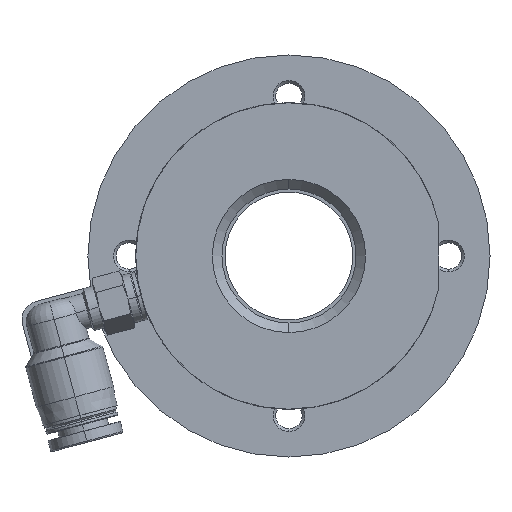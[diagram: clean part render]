
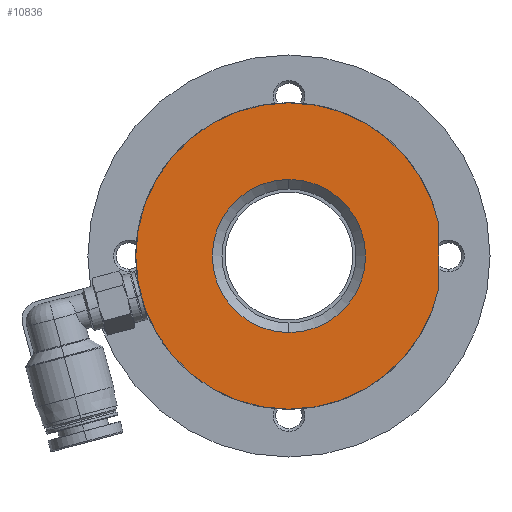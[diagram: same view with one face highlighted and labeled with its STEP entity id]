
A CAD part, front view. The second image highlights one B-rep face of the part: STEP entity #10836.
In plain terms, the highlighted planar face has unit normal (0, -1, 0).
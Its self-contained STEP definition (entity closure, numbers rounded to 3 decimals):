
#381 = DIRECTION ( 'NONE',  ( 0., 0., 1. ) ) ;
#1226 = CIRCLE ( 'NONE', #8323, 24. ) ;
#1323 = LINE ( 'NONE', #2587, #10326 ) ;
#1373 = VERTEX_POINT ( 'NONE', #7583 ) ;
#1999 = VERTEX_POINT ( 'NONE', #6786 ) ;
#2100 = CARTESIAN_POINT ( 'NONE',  ( 23.5, -13., -4.873 ) ) ;
#2143 = AXIS2_PLACEMENT_3D ( 'NONE', #9987, #9861, #9907 ) ;
#2239 = ORIENTED_EDGE ( 'NONE', *, *, #4469, .T. ) ;
#2256 = DIRECTION ( 'NONE',  ( 0., 1., 0. ) ) ;
#2293 = EDGE_CURVE ( 'NONE', #1373, #1999, #10221, .T. ) ;
#2332 = EDGE_CURVE ( 'NONE', #9789, #7538, #1226, .T. ) ;
#2427 = VERTEX_POINT ( 'NONE', #4113 ) ;
#2449 = CIRCLE ( 'NONE', #7896, 24. ) ;
#2561 = EDGE_CURVE ( 'NONE', #7538, #2427, #10206, .T. ) ;
#2587 = CARTESIAN_POINT ( 'NONE',  ( 23.5, -13., 0. ) ) ;
#2814 = CARTESIAN_POINT ( 'NONE',  ( 0., -13., 0. ) ) ;
#2841 = EDGE_CURVE ( 'NONE', #2427, #6424, #2449, .T. ) ;
#2919 = ORIENTED_EDGE ( 'NONE', *, *, #2841, .F. ) ;
#3254 = DIRECTION ( 'NONE',  ( 0., 1., 0. ) ) ;
#3374 = FACE_OUTER_BOUND ( 'NONE', #10412, .T. ) ;
#3560 = CARTESIAN_POINT ( 'NONE',  ( 0., -13., 0. ) ) ;
#4113 = CARTESIAN_POINT ( 'NONE',  ( 0., -13., 24. ) ) ;
#4469 = EDGE_CURVE ( 'NONE', #1999, #1373, #5803, .T. ) ;
#5098 = DIRECTION ( 'NONE',  ( 0., 1., 0. ) ) ;
#5193 = DIRECTION ( 'NONE',  ( 0., 0., 1. ) ) ;
#5400 = DIRECTION ( 'NONE',  ( 1., 0., 0. ) ) ;
#5507 = ORIENTED_EDGE ( 'NONE', *, *, #2293, .T. ) ;
#5576 = CARTESIAN_POINT ( 'NONE',  ( 0., -13., 0. ) ) ;
#5649 = DIRECTION ( 'NONE',  ( 0., 1., 0. ) ) ;
#5658 = DIRECTION ( 'NONE',  ( 0., 1., 0. ) ) ;
#5803 = CIRCLE ( 'NONE', #8197, 12. ) ;
#6021 = ORIENTED_EDGE ( 'NONE', *, *, #2561, .F. ) ;
#6281 = CARTESIAN_POINT ( 'NONE',  ( 0., -13., -24. ) ) ;
#6374 = CARTESIAN_POINT ( 'NONE',  ( 0., -13., 0. ) ) ;
#6424 = VERTEX_POINT ( 'NONE', #8515 ) ;
#6451 = PLANE ( 'NONE',  #10784 ) ;
#6478 = DIRECTION ( 'NONE',  ( 0., 0., 1. ) ) ;
#6786 = CARTESIAN_POINT ( 'NONE',  ( 0., -13., -12. ) ) ;
#7159 = EDGE_LOOP ( 'NONE', ( #2239, #5507 ) ) ;
#7175 = AXIS2_PLACEMENT_3D ( 'NONE', #6374, #5649, #6478 ) ;
#7404 = EDGE_CURVE ( 'NONE', #9789, #6424, #1323, .T. ) ;
#7538 = VERTEX_POINT ( 'NONE', #6281 ) ;
#7583 = CARTESIAN_POINT ( 'NONE',  ( 0., -13., 12. ) ) ;
#7629 = DIRECTION ( 'NONE',  ( 0., 0., 1. ) ) ;
#7886 = ORIENTED_EDGE ( 'NONE', *, *, #2332, .F. ) ;
#7896 = AXIS2_PLACEMENT_3D ( 'NONE', #2814, #5098, #5400 ) ;
#7978 = FACE_BOUND ( 'NONE', #7159, .T. ) ;
#8197 = AXIS2_PLACEMENT_3D ( 'NONE', #3560, #3254, #7629 ) ;
#8323 = AXIS2_PLACEMENT_3D ( 'NONE', #5576, #2256, #9075 ) ;
#8515 = CARTESIAN_POINT ( 'NONE',  ( 23.5, -13., 4.873 ) ) ;
#9075 = DIRECTION ( 'NONE',  ( 1., 0., 0. ) ) ;
#9789 = VERTEX_POINT ( 'NONE', #2100 ) ;
#9861 = DIRECTION ( 'NONE',  ( 0., 1., 0. ) ) ;
#9907 = DIRECTION ( 'NONE',  ( 1., 0., 0. ) ) ;
#9987 = CARTESIAN_POINT ( 'NONE',  ( 0., -13., 0. ) ) ;
#10206 = CIRCLE ( 'NONE', #2143, 24. ) ;
#10221 = CIRCLE ( 'NONE', #7175, 12. ) ;
#10326 = VECTOR ( 'NONE', #5193, 1000. ) ;
#10412 = EDGE_LOOP ( 'NONE', ( #7886, #10950, #2919, #6021 ) ) ;
#10784 = AXIS2_PLACEMENT_3D ( 'NONE', #10900, #5658, #381 ) ;
#10836 = ADVANCED_FACE ( 'NONE', ( #7978, #3374 ), #6451, .F. ) ;
#10900 = CARTESIAN_POINT ( 'NONE',  ( 0., -13., 0. ) ) ;
#10950 = ORIENTED_EDGE ( 'NONE', *, *, #7404, .T. ) ;
